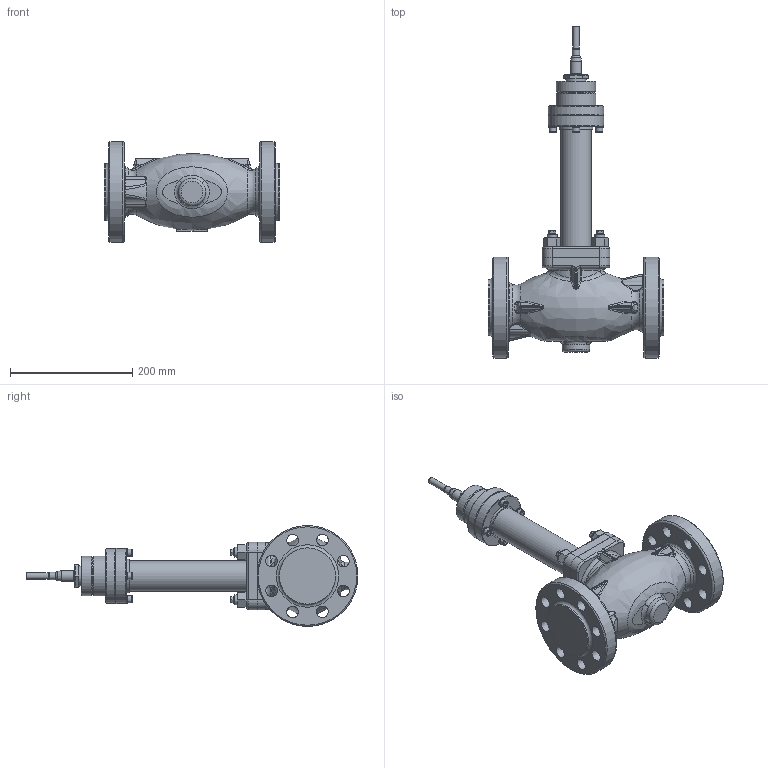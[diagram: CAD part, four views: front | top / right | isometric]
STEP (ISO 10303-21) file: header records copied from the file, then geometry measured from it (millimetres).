
FILE_DESCRIPTION(/* description */ (''),/* implementation_level */ '2;1');
FILE_NAME(/* name */ 'CV3xx_NPS_2_priruba_CL600_vlnovec.stp',/* time_stamp */ '2015-08-11T10:08:15+02:00',/* author */ (''),/* organization */ (''),/* preprocessor_version */ 'ST-DEVELOPER v15',/* originating_system */ 'SIEMENS PLM Software NX 8.5',/* authorisation */ '');
FILE_SCHEMA (('AP203_CONFIGURATION_CONTROLLED_3D_DESIGN_OF_MECHANICAL_PARTS_AND_ASSEMBLIES_MIM_LF { 1 0 10303 403 2 1 2}'));
Length unit declared in the file: millimetre
Products named in the file (1): adam1354300Cul81
Bounding box: 286 x 542.5 x 165 mm (x, y, z)
Volume: 4298262.1 mm3; surface area: 324015.2 mm2
Topology: 1 solids, 1 shells, 625 faces, 1481 edges, 890 vertices
Faces by surface type: plane 192, cylinder 153, bspline 114, cone 111, torus 55
Full cylindrical faces by diameter (mm): 7 x4, 7.76 x4, 9 x4, 10 x1, 11.64 x4, 12 x1, 12.5 x4, 16 x12, 18 x5, 19.1 x16, 24 x8, 27 x1, 33 x1, 45 x1, 50 x1, 50.3 x2, 55 x1, 58 x1, 61.6 x1, 64 x1, 65 x1, 86 x1, 90 x2, 92.1 x2, 165 x2
Entity records: 19654 total; most frequent: CARTESIAN_POINT 6884, ORIENTED_EDGE 2536, DIRECTION 2517, EDGE_CURVE 1268, AXIS2_PLACEMENT_3D 1100, EDGE_LOOP 856, VERTEX_POINT 820, ADVANCED_FACE 625
